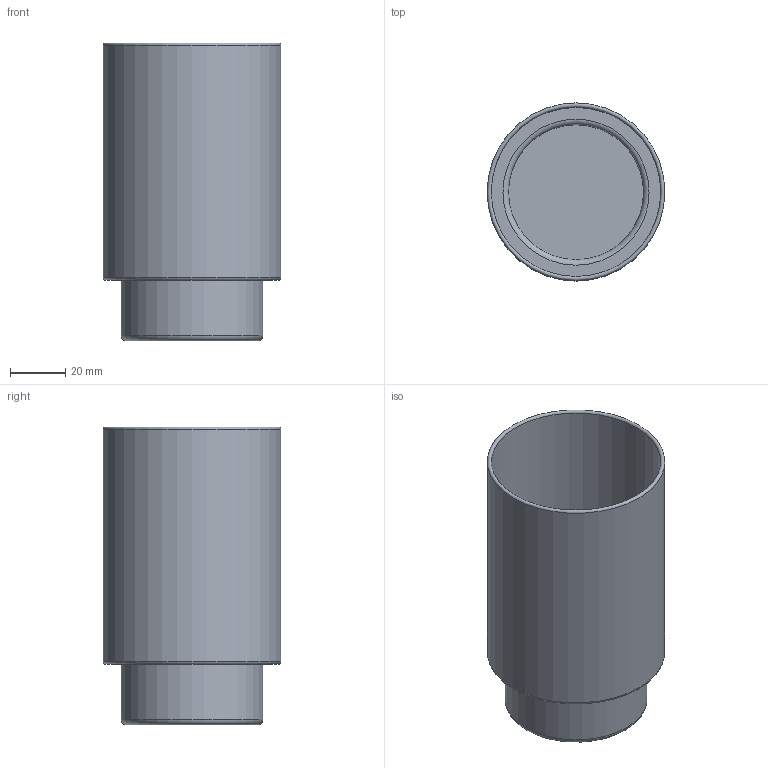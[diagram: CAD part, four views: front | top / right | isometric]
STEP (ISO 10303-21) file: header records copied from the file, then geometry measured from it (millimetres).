
FILE_DESCRIPTION(/* description */ (''),/* implementation_level */ '2;1');
FILE_NAME(/* name */ '41111059',/* time_stamp */ '2019-08-26T09:33:45+08:00',/* author */ (''),/* organization */ (''),/* preprocessor_version */ 'ST-DEVELOPER v9',/* originating_system */ 'UGS - NX 4.0',/* authorisation */ '');
FILE_SCHEMA (('CONFIG_CONTROL_DESIGN'));
Length unit declared in the file: millimetre
Products named in the file (1): w335DEEtk4m
Bounding box: 64.5 x 64.5 x 108 mm (x, y, z)
Volume: 33966.9 mm3; surface area: 46747.6 mm2
Topology: 1 solids, 1 shells, 12 faces, 19 edges, 11 vertices
Faces by surface type: cylinder 4, plane 4, torus 4
Full cylindrical faces by diameter (mm): 49 x1, 51.5 x1, 61.5 x1, 64.5 x1
Entity records: 320 total; most frequent: DIRECTION 48, CARTESIAN_POINT 35, AXIS2_PLACEMENT_3D 24, EDGE_LOOP 22, ORIENTED_EDGE 22, FACE_BOUND 18, ADVANCED_FACE 12, VERTEX_POINT 11
